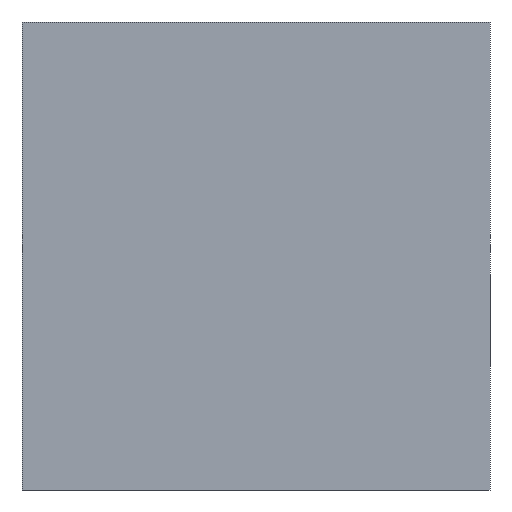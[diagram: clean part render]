
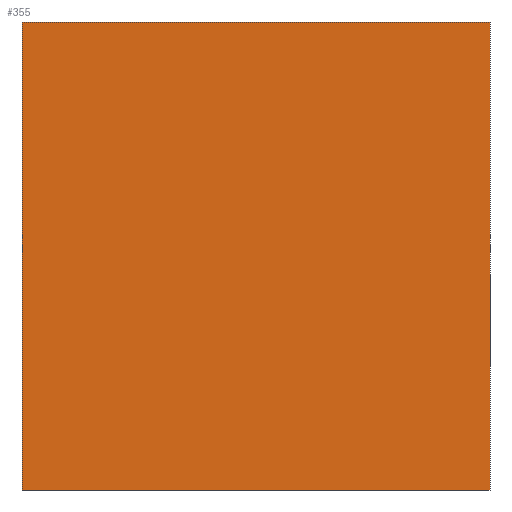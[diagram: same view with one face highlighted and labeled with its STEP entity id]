
A CAD part, left-side view. The second image highlights one B-rep face of the part: STEP entity #355.
In plain terms, the highlighted planar face has unit normal (-1, 0, 0).
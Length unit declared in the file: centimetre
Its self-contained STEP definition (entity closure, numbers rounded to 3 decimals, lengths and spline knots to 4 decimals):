
#24 = VECTOR ( 'NONE', #105, 100. ) ;
#33 = CARTESIAN_POINT ( 'NONE',  ( 0., 0., 1000. ) ) ;
#35 = FACE_OUTER_BOUND ( 'NONE', #190, .T. ) ;
#49 = EDGE_CURVE ( 'NONE', #260, #406, #432, .T. ) ;
#75 = PLANE ( 'NONE',  #118 ) ;
#81 = VECTOR ( 'NONE', #193, 100. ) ;
#86 = LINE ( 'NONE', #90, #320 ) ;
#90 = CARTESIAN_POINT ( 'NONE',  ( 0., 1000., 1000. ) ) ;
#105 = DIRECTION ( 'NONE',  ( 0., -1., 0. ) ) ;
#118 = AXIS2_PLACEMENT_3D ( 'NONE', #489, #238, #446 ) ;
#141 = CARTESIAN_POINT ( 'NONE',  ( 0., 1000., 1000. ) ) ;
#179 = LINE ( 'NONE', #141, #477 ) ;
#181 = EDGE_CURVE ( 'NONE', #325, #377, #86, .T. ) ;
#187 = LINE ( 'NONE', #312, #81 ) ;
#189 = ORIENTED_EDGE ( 'NONE', *, *, #314, .F. ) ;
#190 = EDGE_LOOP ( 'NONE', ( #408, #189, #398, #237 ) ) ;
#193 = DIRECTION ( 'NONE',  ( 0., 0., -1. ) ) ;
#194 = EDGE_CURVE ( 'NONE', #325, #260, #179, .T. ) ;
#213 = DIRECTION ( 'NONE',  ( 0., 0., -1. ) ) ;
#237 = ORIENTED_EDGE ( 'NONE', *, *, #194, .T. ) ;
#238 = DIRECTION ( 'NONE',  ( 1., 0., 0. ) ) ;
#260 = VERTEX_POINT ( 'NONE', #338 ) ;
#291 = CARTESIAN_POINT ( 'NONE',  ( 0., 0., 0. ) ) ;
#308 = CARTESIAN_POINT ( 'NONE',  ( 0., 1000., 0. ) ) ;
#312 = CARTESIAN_POINT ( 'NONE',  ( 0., 0., 1000. ) ) ;
#314 = EDGE_CURVE ( 'NONE', #377, #406, #187, .T. ) ;
#320 = VECTOR ( 'NONE', #427, 100. ) ;
#325 = VERTEX_POINT ( 'NONE', #478 ) ;
#338 = CARTESIAN_POINT ( 'NONE',  ( 0., 1000., 0. ) ) ;
#355 = ADVANCED_FACE ( 'NONE', ( #35 ), #75, .F. ) ;
#377 = VERTEX_POINT ( 'NONE', #33 ) ;
#398 = ORIENTED_EDGE ( 'NONE', *, *, #181, .F. ) ;
#406 = VERTEX_POINT ( 'NONE', #291 ) ;
#408 = ORIENTED_EDGE ( 'NONE', *, *, #49, .T. ) ;
#427 = DIRECTION ( 'NONE',  ( 0., -1., 0. ) ) ;
#432 = LINE ( 'NONE', #308, #24 ) ;
#446 = DIRECTION ( 'NONE',  ( 0., 0., -1. ) ) ;
#477 = VECTOR ( 'NONE', #213, 100. ) ;
#478 = CARTESIAN_POINT ( 'NONE',  ( 0., 1000., 1000. ) ) ;
#489 = CARTESIAN_POINT ( 'NONE',  ( 0., 1000., 1000. ) ) ;
